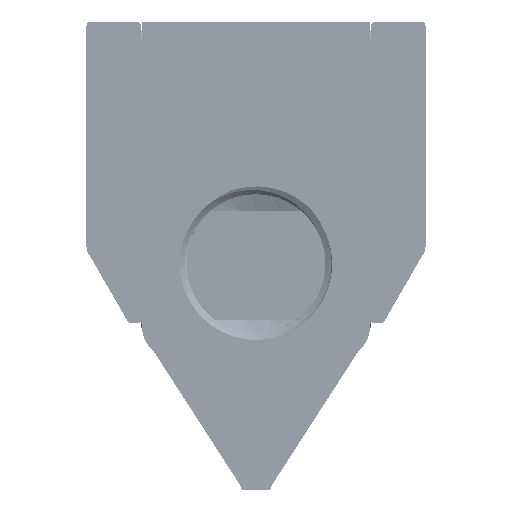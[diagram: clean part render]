
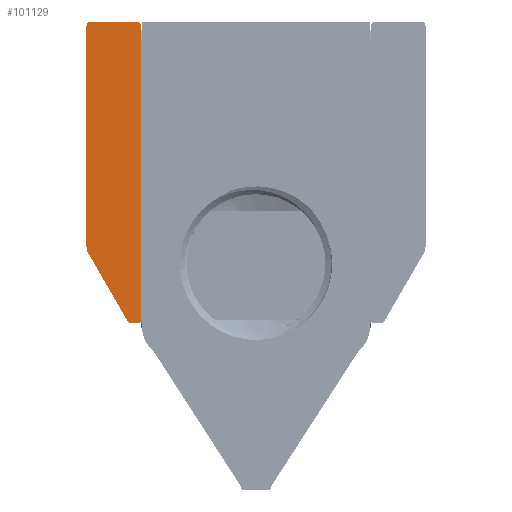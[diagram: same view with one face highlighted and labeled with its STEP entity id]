
A CAD part, left-side view. The second image highlights one B-rep face of the part: STEP entity #101129.
In plain terms, the highlighted planar face has unit normal (-1, 0, 0).
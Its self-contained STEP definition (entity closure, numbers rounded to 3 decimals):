
#6309 = CARTESIAN_POINT ( 'NONE',  ( -241., 12.58, -33. ) ) ;
#7424 = AXIS2_PLACEMENT_3D ( 'NONE', #196077, #65000, #95887 ) ;
#8460 = DIRECTION ( 'NONE',  ( 0., -1., 0. ) ) ;
#8899 = EDGE_CURVE ( 'NONE', #207059, #124837, #204623, .T. ) ;
#10422 = VECTOR ( 'NONE', #24515, 1000. ) ;
#19331 = EDGE_CURVE ( 'NONE', #213412, #169596, #21606, .T. ) ;
#21606 = CIRCLE ( 'NONE', #7424, 0.25 ) ;
#21607 = DIRECTION ( 'NONE',  ( 0., 0., -1. ) ) ;
#21798 = AXIS2_PLACEMENT_3D ( 'NONE', #143578, #76353, #176584 ) ;
#22038 = CARTESIAN_POINT ( 'NONE',  ( -241., 18.18, -0.4 ) ) ;
#24515 = DIRECTION ( 'NONE',  ( 0., -0.5, -0.866 ) ) ;
#34548 = DIRECTION ( 'NONE',  ( 0., 0., -1. ) ) ;
#34567 = CARTESIAN_POINT ( 'NONE',  ( -241., 12.58, -33. ) ) ;
#45898 = CARTESIAN_POINT ( 'NONE',  ( -241., 12.98, 0. ) ) ;
#47225 = ORIENTED_EDGE ( 'NONE', *, *, #118209, .T. ) ;
#52150 = DIRECTION ( 'NONE',  ( 0., 0., 1. ) ) ;
#54927 = LINE ( 'NONE', #86945, #76596 ) ;
#58245 = EDGE_CURVE ( 'NONE', #94052, #70627, #157744, .T. ) ;
#59718 = CIRCLE ( 'NONE', #102049, 0.4 ) ;
#63380 = ORIENTED_EDGE ( 'NONE', *, *, #69019, .T. ) ;
#65000 = DIRECTION ( 'NONE',  ( -1., 0., 0. ) ) ;
#65556 = CARTESIAN_POINT ( 'NONE',  ( -241., 13.73, -32.6 ) ) ;
#66644 = DIRECTION ( 'NONE',  ( -1., 0., 0. ) ) ;
#67424 = EDGE_CURVE ( 'NONE', #158388, #213412, #192436, .T. ) ;
#69019 = EDGE_CURVE ( 'NONE', #169596, #207059, #185440, .T. ) ;
#69425 = AXIS2_PLACEMENT_3D ( 'NONE', #166735, #167840, #34548 ) ;
#70627 = VERTEX_POINT ( 'NONE', #165600 ) ;
#72259 = ORIENTED_EDGE ( 'NONE', *, *, #200359, .T. ) ;
#74039 = CARTESIAN_POINT ( 'NONE',  ( -241., 13.961, -33. ) ) ;
#75823 = CARTESIAN_POINT ( 'NONE',  ( -241., 13.73, -33. ) ) ;
#76353 = DIRECTION ( 'NONE',  ( -1., 0., 0. ) ) ;
#76596 = VECTOR ( 'NONE', #154104, 1000. ) ;
#83839 = CIRCLE ( 'NONE', #104886, 1.2 ) ;
#83998 = CARTESIAN_POINT ( 'NONE',  ( -241., 12.58, -32.75 ) ) ;
#86945 = CARTESIAN_POINT ( 'NONE',  ( -241., 12.58, 0. ) ) ;
#89225 = DIRECTION ( 'NONE',  ( -1., 0., 0. ) ) ;
#92268 = AXIS2_PLACEMENT_3D ( 'NONE', #65556, #66644, #202091 ) ;
#92976 = CARTESIAN_POINT ( 'NONE',  ( -241., 12.58, -0.4 ) ) ;
#94052 = VERTEX_POINT ( 'NONE', #130466 ) ;
#94327 = ORIENTED_EDGE ( 'NONE', *, *, #185885, .T. ) ;
#94839 = LINE ( 'NONE', #209389, #144764 ) ;
#95887 = DIRECTION ( 'NONE',  ( 0., 0., -1. ) ) ;
#96575 = CARTESIAN_POINT ( 'NONE',  ( -241., 18.18, 0. ) ) ;
#100618 = PLANE ( 'NONE',  #69425 ) ;
#101129 = ADVANCED_FACE ( 'NONE', ( #183241 ), #100618, .F. ) ;
#102049 = AXIS2_PLACEMENT_3D ( 'NONE', #22038, #89225, #124437 ) ;
#104886 = AXIS2_PLACEMENT_3D ( 'NONE', #136194, #119662, #21607 ) ;
#115084 = VERTEX_POINT ( 'NONE', #139656 ) ;
#117322 = CARTESIAN_POINT ( 'NONE',  ( -241., 18.58, -24.678 ) ) ;
#118209 = EDGE_CURVE ( 'NONE', #128338, #115084, #59718, .T. ) ;
#119662 = DIRECTION ( 'NONE',  ( -1., 0., 0. ) ) ;
#121223 = VECTOR ( 'NONE', #8460, 1000. ) ;
#124437 = DIRECTION ( 'NONE',  ( 0., 0., -1. ) ) ;
#124837 = VERTEX_POINT ( 'NONE', #45898 ) ;
#125167 = VECTOR ( 'NONE', #52150, 1000. ) ;
#128338 = VERTEX_POINT ( 'NONE', #96575 ) ;
#130466 = CARTESIAN_POINT ( 'NONE',  ( -241., 18.419, -25.278 ) ) ;
#132146 = ORIENTED_EDGE ( 'NONE', *, *, #58245, .T. ) ;
#136194 = CARTESIAN_POINT ( 'NONE',  ( -241., 17.38, -24.678 ) ) ;
#139656 = CARTESIAN_POINT ( 'NONE',  ( -241., 18.58, -0.4 ) ) ;
#143318 = ORIENTED_EDGE ( 'NONE', *, *, #206615, .T. ) ;
#143578 = CARTESIAN_POINT ( 'NONE',  ( -241., 12.98, -0.4 ) ) ;
#144764 = VECTOR ( 'NONE', #192869, 1000. ) ;
#154104 = DIRECTION ( 'NONE',  ( 0., 1., 0. ) ) ;
#157744 = LINE ( 'NONE', #74039, #10422 ) ;
#158388 = VERTEX_POINT ( 'NONE', #75823 ) ;
#164412 = CARTESIAN_POINT ( 'NONE',  ( -241., 12.83, -33. ) ) ;
#165600 = CARTESIAN_POINT ( 'NONE',  ( -241., 14.077, -32.8 ) ) ;
#166735 = CARTESIAN_POINT ( 'NONE',  ( -241., 12.58, -33. ) ) ;
#167840 = DIRECTION ( 'NONE',  ( 1., 0., 0. ) ) ;
#169596 = VERTEX_POINT ( 'NONE', #83998 ) ;
#176584 = DIRECTION ( 'NONE',  ( 0., 0., -1. ) ) ;
#178220 = ORIENTED_EDGE ( 'NONE', *, *, #67424, .T. ) ;
#183241 = FACE_OUTER_BOUND ( 'NONE', #190236, .T. ) ;
#183627 = ORIENTED_EDGE ( 'NONE', *, *, #194910, .T. ) ;
#185440 = LINE ( 'NONE', #34567, #125167 ) ;
#185885 = EDGE_CURVE ( 'NONE', #115084, #192884, #94839, .T. ) ;
#187388 = ORIENTED_EDGE ( 'NONE', *, *, #8899, .T. ) ;
#190236 = EDGE_LOOP ( 'NONE', ( #94327, #183627, #132146, #143318, #178220, #199054, #63380, #187388, #72259, #47225 ) ) ;
#192436 = LINE ( 'NONE', #6309, #121223 ) ;
#192869 = DIRECTION ( 'NONE',  ( 0., 0., -1. ) ) ;
#192884 = VERTEX_POINT ( 'NONE', #117322 ) ;
#194910 = EDGE_CURVE ( 'NONE', #192884, #94052, #83839, .T. ) ;
#196077 = CARTESIAN_POINT ( 'NONE',  ( -241., 12.83, -32.75 ) ) ;
#199054 = ORIENTED_EDGE ( 'NONE', *, *, #19331, .T. ) ;
#200359 = EDGE_CURVE ( 'NONE', #124837, #128338, #54927, .T. ) ;
#202091 = DIRECTION ( 'NONE',  ( 0., 0., -1. ) ) ;
#204623 = CIRCLE ( 'NONE', #21798, 0.4 ) ;
#204828 = CIRCLE ( 'NONE', #92268, 0.4 ) ;
#206615 = EDGE_CURVE ( 'NONE', #70627, #158388, #204828, .T. ) ;
#207059 = VERTEX_POINT ( 'NONE', #92976 ) ;
#209389 = CARTESIAN_POINT ( 'NONE',  ( -241., 18.58, -33. ) ) ;
#213412 = VERTEX_POINT ( 'NONE', #164412 ) ;
